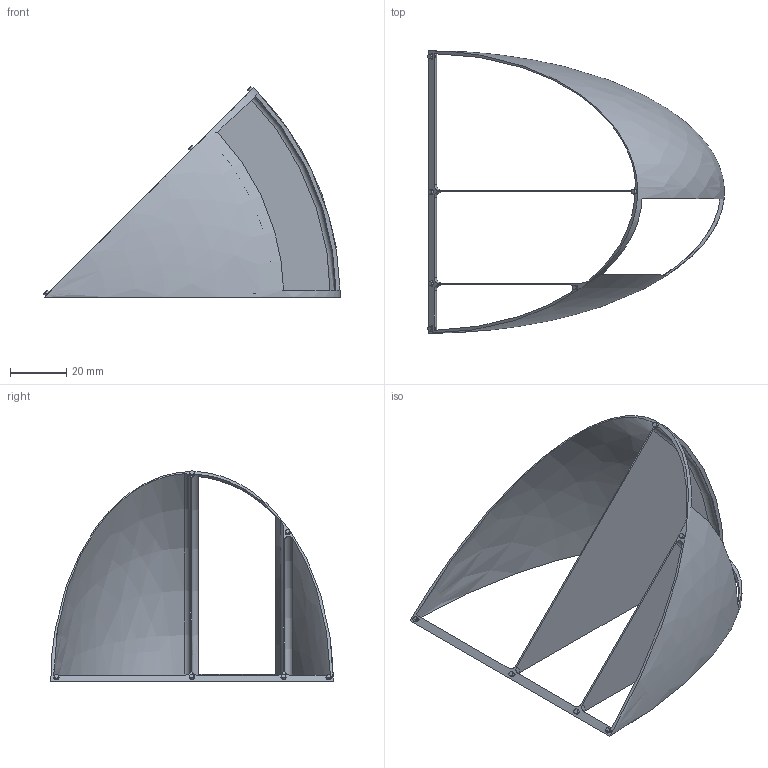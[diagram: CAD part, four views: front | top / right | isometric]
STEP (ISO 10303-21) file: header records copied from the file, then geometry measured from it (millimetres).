
FILE_DESCRIPTION(('FreeCAD Model'),'2;1');
FILE_NAME('Open CASCADE Shape Model','2023-04-22T07:07:18',('Author'),( ''),'Open CASCADE STEP processor 7.6','FreeCAD','Unknown');
FILE_SCHEMA(('AUTOMOTIVE_DESIGN { 1 0 10303 214 1 1 1 1 }'));
Length unit declared in the file: millimetre
Products named in the file (1): Body
Bounding box: 105.15 x 100.14 x 74.53 mm (x, y, z)
Volume: 10488.1 mm3; surface area: 32499.2 mm2
Topology: 1 solids, 1 shells, 50 faces, 161 edges, 106 vertices
Faces by surface type: plane 21, cylinder 17, torus 8, revolution 4
Full cylindrical faces by diameter (mm): 1.7 x6, 2 x5
Entity records: 4667 total; most frequent: CARTESIAN_POINT 1513, DIRECTION 598, ORIENTED_EDGE 318, PCURVE 318, DEFINITIONAL_REPRESENTATION 318, LINE 212, VECTOR 212, EDGE_CURVE 159
